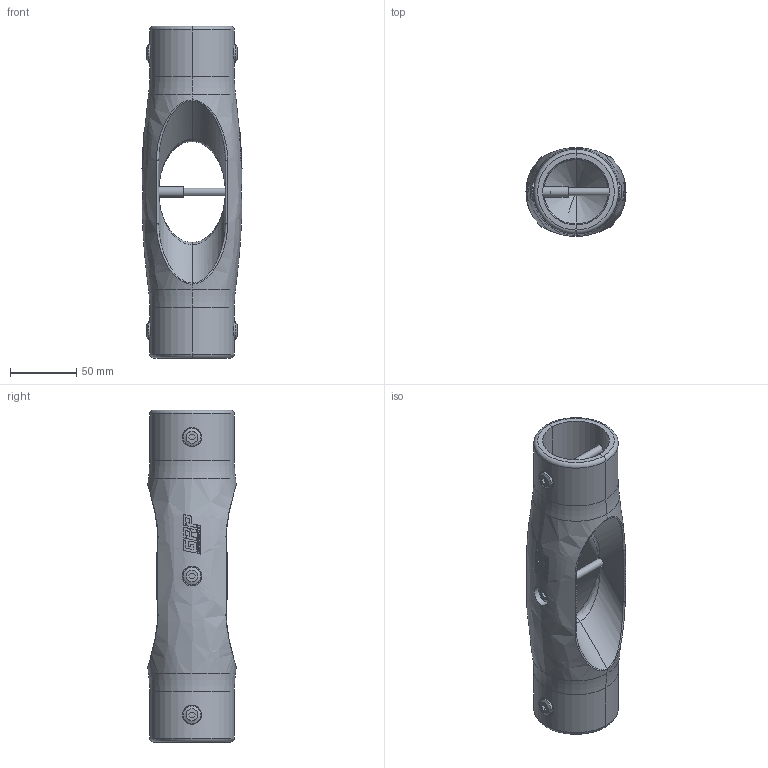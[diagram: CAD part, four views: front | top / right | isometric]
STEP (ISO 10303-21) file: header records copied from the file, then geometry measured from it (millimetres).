
FILE_DESCRIPTION(/* description */ ('FRP HANDRAIL FITTING'),/* implementation_level */ '2;1');
FILE_NAME(/* name */ 'C:\Users\Callum\The Trustee for INKSTONE UNIT TRUST\GRP Australia - Documents\8 Drawings\Handrails\3D Models\Handrail Fittings STEP\MH4-Flex.stp',/* time_stamp */ '2022-09-15T13:59:21+10:00',/* author */ ('Callum'),/* organization */ (''),/* preprocessor_version */ 'ST-DEVELOPER v18.1',/* originating_system */ 'Autodesk Inventor 2022',/* authorisation */ '');
FILE_SCHEMA (('AUTOMOTIVE_DESIGN { 1 0 10303 214 3 1 1 }'));
Length unit declared in the file: millimetre
Products named in the file (5): MH4-FLEX ASSEMBLY; MH4-FLEX-Rev0; MHR M6 BARREL NUT & SET SCREW; M6x8 Barrel Nut; M6x50 Soc Head Screw
Assembly tree (7 placements, depth 3):
  MH4-FLEX ASSEMBLY
    MH4-FLEX-Rev0  x2
    MHR M6 BARREL NUT & SET SCREW  x3
      M6x8 Barrel Nut
      M6x50 Soc Head Screw
Bounding box: 75.31 x 66.63 x 250 mm (x, y, z)
Volume: 376620.4 mm3; surface area: 96036 mm2
Topology: 8 solids, 8 shells, 680 faces, 1846 edges, 1229 vertices
Faces by surface type: bspline 346, cylinder 209, plane 97, cone 16, torus 12
Full cylindrical faces by diameter (mm): 5 x3, 6 x3, 8 x3, 8.5 x6
Entity records: 111780 total; most frequent: CARTESIAN_POINT 104307, ORIENTED_EDGE 1786, DIRECTION 1079, EDGE_CURVE 893, VERTEX_POINT 596, AXIS2_PLACEMENT_3D 377, B_SPLINE_CURVE_WITH_KNOTS 357, EDGE_LOOP 355
